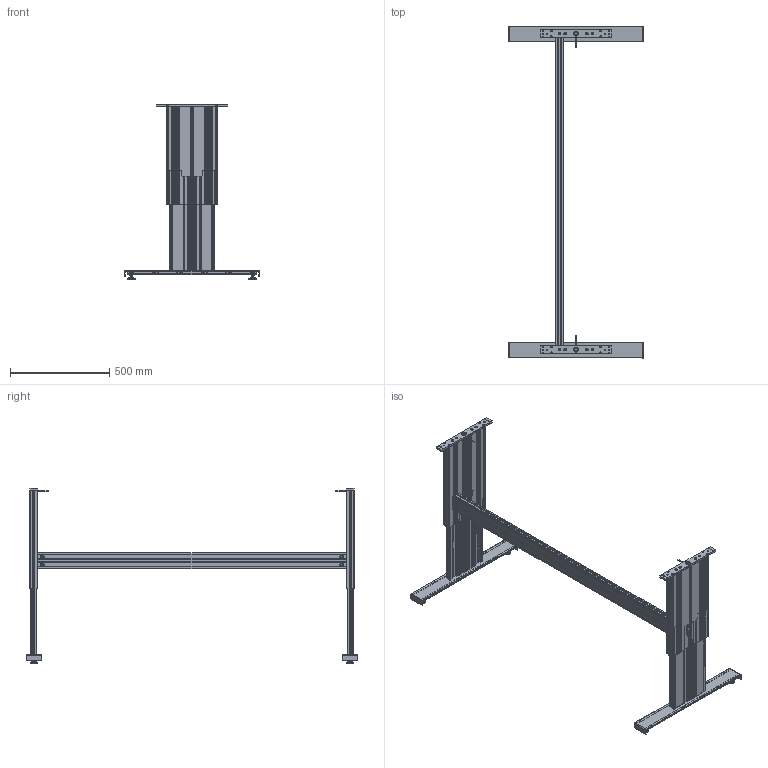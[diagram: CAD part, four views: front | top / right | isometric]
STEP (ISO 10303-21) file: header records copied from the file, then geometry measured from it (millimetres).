
FILE_DESCRIPTION(/* description */ ('Unknown'),/* implementation_level */ '2;1');
FILE_NAME(/* name */ '108.00463 Untergestell TT-2 1830 1590_ausgefahren',/* time_stamp */ '2017-12-04T15:34:14+01:00',/* author */ ('Unknown'),/* organization */ ('Unknown'),/* preprocessor_version */ 'ST-DEVELOPER v16.7',/* originating_system */ 'DEX',/* authorisation */ $);
FILE_SCHEMA (('AUTOMOTIVE_DESIGN {1 0 10303 214 3 1 1}'));
Products named in the file (29): 108.00463; 106.00383_oa_0; 119.00203; 119.00154; 142.00188; 142.00166; 142.00031; 126.00102; 109.00024_oa_1; 115.00008_oa_2; 125.00063; 125.00021; 113.00002_70mm; 106.00383_oa_3; 109.00024_oa_4; 115.00008_oa_5; 115.00094; 119.00174; 142.00207; 127.00515; 127.00520; 127.00556; 127.00557; 127.00520_461_469_Kehlnaht 1_oa_6; 113.00095; 113.00099; 113.00096; 113.00097; 113.00098
Assembly tree (50 placements, depth 5):
  108.00463
    106.00383_oa_0
      119.00203
      119.00154
      142.00188  x2
      142.00166  x4
      142.00031
      126.00102
      109.00024_oa_1
        115.00008_oa_2
        125.00063
        125.00021
      113.00002_70mm
    106.00383_oa_3
      119.00203
      119.00154
      142.00188  x2
      142.00166  x4
      142.00031
      126.00102
      109.00024_oa_4
        115.00008_oa_5
        125.00063
        125.00021
      113.00002_70mm
    115.00094
      119.00174
      142.00207  x4
    127.00515  x2
      127.00520
        127.00556
        127.00557
        127.00520_461_469_Kehlnaht 1_oa_6
      113.00095
        113.00099
        113.00096
          113.00097
          113.00098
Bounding box: 680 x 1670 x 883.5 mm (x, y, z)
Volume: 7100323.6 mm3; surface area: 5023657.2 mm2
Topology: 71 solids, 79 shells, 4882 faces, 13892 edges, 9232 vertices
Faces by surface type: plane 3036, cylinder 1548, cone 194, torus 72, bspline 24, sphere 8
Full cylindrical faces by diameter (mm): 1.8 x4, 2.2 x2, 2.99 x2, 3.242 x4, 3.5 x2, 4 x6, 4.1 x2, 4.2 x2, 5 x12, 5.5 x8, 6.6 x8, 6.647 x16, 6.917 x4, 7.5 x4, 8 x16, 8.376 x6, 8.5 x20, 8.7 x8, 10 x8, 11.3 x8, 12 x4, 12.5 x10, 13 x4, 13.5 x6, 13.7 x2, 14.4 x2, 17.9 x4, 18 x16, 25 x10, 27.2 x4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
Entity records: 85269 total; most frequent: CARTESIAN_POINT 14586, ORIENTED_EDGE 13064, DIRECTION 12697, EDGE_CURVE 6532, LINE 4481, VECTOR 4481, VERTEX_POINT 4422, AXIS2_PLACEMENT_3D 4108
